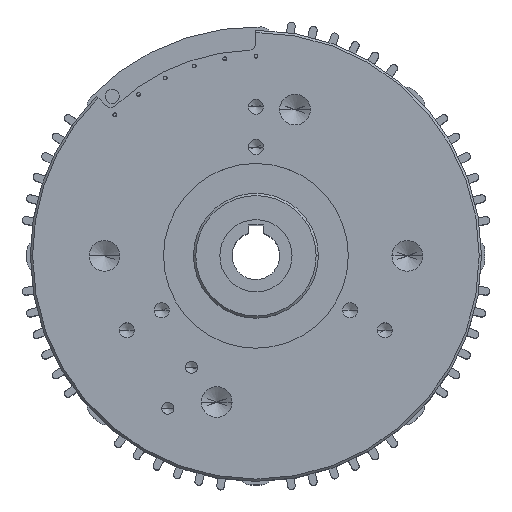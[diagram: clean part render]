
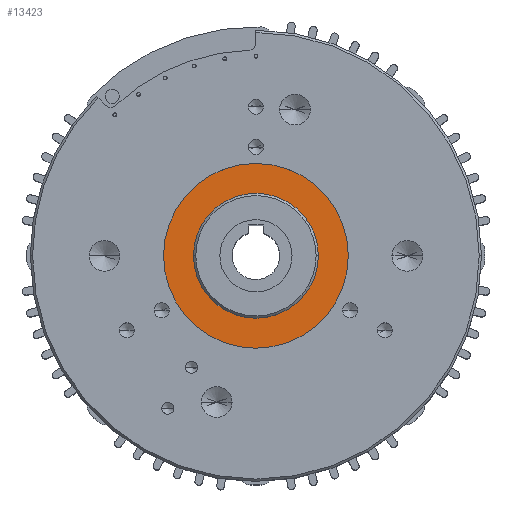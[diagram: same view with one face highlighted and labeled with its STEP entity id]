
A CAD part, top view. The second image highlights one B-rep face of the part: STEP entity #13423.
In plain terms, the highlighted planar face has unit normal (0, 0, 1).
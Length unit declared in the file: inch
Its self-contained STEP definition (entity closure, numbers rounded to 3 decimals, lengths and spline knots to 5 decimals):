
#1063 = CARTESIAN_POINT ( 'NONE',  ( 0.68917, 0., -0.168 ) ) ;
#1878 = EDGE_CURVE ( 'NONE', #3504, #13448, #14581, .T. ) ;
#2258 = DIRECTION ( 'NONE',  ( 1., 0., 0. ) ) ;
#2278 = DIRECTION ( 'NONE',  ( 0., 0., 1. ) ) ;
#2296 = CARTESIAN_POINT ( 'NONE',  ( 0., 0., -0.168 ) ) ;
#2801 = CARTESIAN_POINT ( 'NONE',  ( 0., 0.68917, -0.168 ) ) ;
#3111 = AXIS2_PLACEMENT_3D ( 'NONE', #8084, #18701, #9644 ) ;
#3504 = VERTEX_POINT ( 'NONE', #18042 ) ;
#4293 = DIRECTION ( 'NONE',  ( -1., 0., 0. ) ) ;
#4357 = CARTESIAN_POINT ( 'NONE',  ( 0., 0., -0.168 ) ) ;
#5262 = CIRCLE ( 'NONE', #19034, 0.68917 ) ;
#5751 = EDGE_CURVE ( 'NONE', #17957, #12043, #5262, .T. ) ;
#5897 = DIRECTION ( 'NONE',  ( 1., 0., 0. ) ) ;
#7257 = PLANE ( 'NONE',  #8566 ) ;
#7357 = EDGE_LOOP ( 'NONE', ( #12075, #15662 ) ) ;
#8084 = CARTESIAN_POINT ( 'NONE',  ( 0., 0., -0.168 ) ) ;
#8528 = FACE_OUTER_BOUND ( 'NONE', #12519, .T. ) ;
#8566 = AXIS2_PLACEMENT_3D ( 'NONE', #2801, #13356, #4293 ) ;
#8712 = CIRCLE ( 'NONE', #16125, 1.22015 ) ;
#9275 = EDGE_CURVE ( 'NONE', #13448, #3504, #8712, .T. ) ;
#9644 = DIRECTION ( 'NONE',  ( 1., 0., 0. ) ) ;
#11626 = AXIS2_PLACEMENT_3D ( 'NONE', #2296, #2278, #2258 ) ;
#12043 = VERTEX_POINT ( 'NONE', #16342 ) ;
#12075 = ORIENTED_EDGE ( 'NONE', *, *, #5751, .F. ) ;
#12234 = CIRCLE ( 'NONE', #3111, 0.68917 ) ;
#12519 = EDGE_LOOP ( 'NONE', ( #16747, #17981 ) ) ;
#13356 = DIRECTION ( 'NONE',  ( 0., 0., -1. ) ) ;
#13423 = ADVANCED_FACE ( 'NONE', ( #16596, #8528 ), #7257, .F. ) ;
#13448 = VERTEX_POINT ( 'NONE', #17930 ) ;
#14581 = CIRCLE ( 'NONE', #11626, 1.22015 ) ;
#14959 = DIRECTION ( 'NONE',  ( 0., 0., 1. ) ) ;
#15632 = DIRECTION ( 'NONE',  ( 1., 0., 0. ) ) ;
#15662 = ORIENTED_EDGE ( 'NONE', *, *, #17457, .F. ) ;
#15670 = DIRECTION ( 'NONE',  ( 0., 0., 1. ) ) ;
#15761 = CARTESIAN_POINT ( 'NONE',  ( 0., 0., -0.168 ) ) ;
#16125 = AXIS2_PLACEMENT_3D ( 'NONE', #4357, #14959, #5897 ) ;
#16342 = CARTESIAN_POINT ( 'NONE',  ( -0.68917, 0., -0.168 ) ) ;
#16596 = FACE_BOUND ( 'NONE', #7357, .T. ) ;
#16747 = ORIENTED_EDGE ( 'NONE', *, *, #1878, .T. ) ;
#17457 = EDGE_CURVE ( 'NONE', #12043, #17957, #12234, .T. ) ;
#17930 = CARTESIAN_POINT ( 'NONE',  ( -1.22015, 0., -0.168 ) ) ;
#17957 = VERTEX_POINT ( 'NONE', #1063 ) ;
#17981 = ORIENTED_EDGE ( 'NONE', *, *, #9275, .T. ) ;
#18042 = CARTESIAN_POINT ( 'NONE',  ( 1.22015, 0., -0.168 ) ) ;
#18701 = DIRECTION ( 'NONE',  ( 0., 0., 1. ) ) ;
#19034 = AXIS2_PLACEMENT_3D ( 'NONE', #15761, #15670, #15632 ) ;
